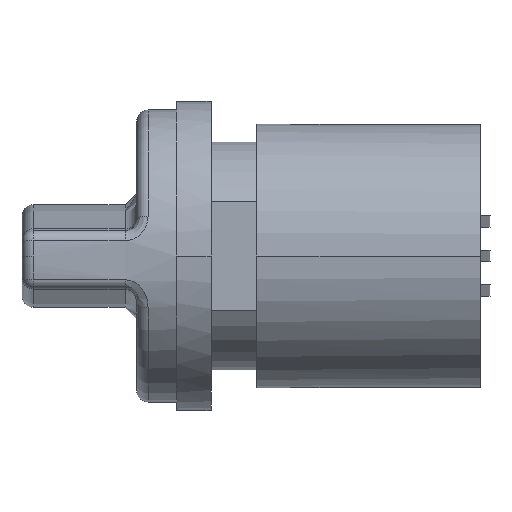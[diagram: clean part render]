
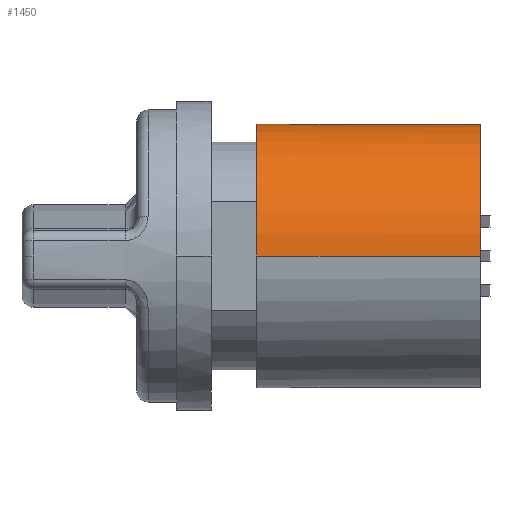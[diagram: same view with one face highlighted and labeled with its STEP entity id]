
A CAD part, left-side view. The second image highlights one B-rep face of the part: STEP entity #1450.
In plain terms, the highlighted cylindrical face has radius 11.5 mm (diameter 23 mm), a partial arc.
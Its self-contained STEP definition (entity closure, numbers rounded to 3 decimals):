
#71 = AXIS2_PLACEMENT_3D ( 'NONE', #141, #140, #147 ) ;
#128 = FACE_OUTER_BOUND ( 'NONE', #1449, .T. ) ;
#140 = DIRECTION ( 'NONE',  ( 0., 0., -1. ) ) ;
#141 = CARTESIAN_POINT ( 'NONE',  ( 0., 0., 19.5 ) ) ;
#147 = DIRECTION ( 'NONE',  ( -1., 0., 0. ) ) ;
#155 = CYLINDRICAL_SURFACE ( 'NONE', #71, 11.5 ) ;
#1203 = EDGE_CURVE ( 'NONE', #1220, #1212, #3448, .T. ) ;
#1204 = ORIENTED_EDGE ( 'NONE', *, *, #1217, .F. ) ;
#1207 = ORIENTED_EDGE ( 'NONE', *, *, #1213, .T. ) ;
#1208 = EDGE_CURVE ( 'NONE', #1212, #1230, #3401, .T. ) ;
#1210 = EDGE_CURVE ( 'NONE', #1274, #1219, #3322, .T. ) ;
#1211 = ORIENTED_EDGE ( 'NONE', *, *, #1255, .T. ) ;
#1212 = VERTEX_POINT ( 'NONE', #3321 ) ;
#1213 = EDGE_CURVE ( 'NONE', #1220, #1279, #3439, .T. ) ;
#1214 = EDGE_CURVE ( 'NONE', #1254, #1215, #3440, .T. ) ;
#1215 = VERTEX_POINT ( 'NONE', #3435 ) ;
#1216 = ORIENTED_EDGE ( 'NONE', *, *, #1210, .T. ) ;
#1217 = EDGE_CURVE ( 'NONE', #1254, #1219, #3291, .T. ) ;
#1218 = ORIENTED_EDGE ( 'NONE', *, *, #1214, .T. ) ;
#1219 = VERTEX_POINT ( 'NONE', #3431 ) ;
#1220 = VERTEX_POINT ( 'NONE', #3430 ) ;
#1222 = VERTEX_POINT ( 'NONE', #3292 ) ;
#1223 = VERTEX_POINT ( 'NONE', #3405 ) ;
#1224 = EDGE_CURVE ( 'NONE', #1222, #1229, #3418, .T. ) ;
#1225 = ORIENTED_EDGE ( 'NONE', *, *, #1227, .T. ) ;
#1226 = ORIENTED_EDGE ( 'NONE', *, *, #1228, .T. ) ;
#1227 = EDGE_CURVE ( 'NONE', #1223, #1230, #3423, .T. ) ;
#1228 = EDGE_CURVE ( 'NONE', #1229, #1223, #3465, .T. ) ;
#1229 = VERTEX_POINT ( 'NONE', #3467 ) ;
#1230 = VERTEX_POINT ( 'NONE', #3466 ) ;
#1254 = VERTEX_POINT ( 'NONE', #3389 ) ;
#1255 = EDGE_CURVE ( 'NONE', #1215, #1222, #3355, .T. ) ;
#1256 = ORIENTED_EDGE ( 'NONE', *, *, #1203, .F. ) ;
#1274 = VERTEX_POINT ( 'NONE', #3313 ) ;
#1275 = EDGE_CURVE ( 'NONE', #1279, #1274, #3307, .T. ) ;
#1276 = ORIENTED_EDGE ( 'NONE', *, *, #1275, .T. ) ;
#1279 = VERTEX_POINT ( 'NONE', #3305 ) ;
#1448 = ORIENTED_EDGE ( 'NONE', *, *, #1224, .T. ) ;
#1449 = EDGE_LOOP ( 'NONE', ( #1448, #1226, #1225, #1451, #1256, #1207, #1276, #1216, #1204, #1218, #1211 ) ) ;
#1450 = ADVANCED_FACE ( 'NONE', ( #128 ), #155, .T. ) ;
#1451 = ORIENTED_EDGE ( 'NONE', *, *, #1208, .F. ) ;
#3290 = VECTOR ( 'NONE', #3399, 1000. ) ;
#3291 = CIRCLE ( 'NONE', #3428, 11.5 ) ;
#3292 = CARTESIAN_POINT ( 'NONE',  ( 11.461, 0.944, 10.057 ) ) ;
#3301 = CARTESIAN_POINT ( 'NONE',  ( 10.451, 4.799, 14.926 ) ) ;
#3302 = CARTESIAN_POINT ( 'NONE',  ( 10.178, 5.392, 15.775 ) ) ;
#3303 = CARTESIAN_POINT ( 'NONE',  ( 9.856, 5.961, 16.586 ) ) ;
#3304 = CARTESIAN_POINT ( 'NONE',  ( 9.487, 6.5, 17.356 ) ) ;
#3305 = CARTESIAN_POINT ( 'NONE',  ( 9.487, 6.5, 17.356 ) ) ;
#3307 =( BOUNDED_CURVE ( )  B_SPLINE_CURVE ( 3, ( #3304, #3303, #3302, #3301 ),
 .UNSPECIFIED., .F., .F. ) 
 B_SPLINE_CURVE_WITH_KNOTS ( ( 4, 4 ),
 ( 4.112, 4.282 ),
 .UNSPECIFIED. ) 
 CURVE ( )  GEOMETRIC_REPRESENTATION_ITEM ( )  RATIONAL_B_SPLINE_CURVE ( ( 1., 0.998, 0.998, 1. ) ) 
 REPRESENTATION_ITEM ( '' )  );
#3313 = CARTESIAN_POINT ( 'NONE',  ( 10.451, 4.799, 14.926 ) ) ;
#3320 = CARTESIAN_POINT ( 'NONE',  ( 10.451, 4.799, 14.926 ) ) ;
#3321 = CARTESIAN_POINT ( 'NONE',  ( -11.5, 0., 19.5 ) ) ;
#3322 = B_SPLINE_CURVE_WITH_KNOTS ( 'NONE', 3,
 ( #3320, #3443, #3442, #3441 ),
 .UNSPECIFIED., .F., .F.,
 ( 4, 4 ),
 ( 0., 0.001 ),
 .UNSPECIFIED. ) ;
#3355 = B_SPLINE_CURVE_WITH_KNOTS ( 'NONE', 3,
 ( #3378, #3377, #3376, #3375, #3374, #3373, #3372, #3371, #3370, #3369, #3368, #3367, #3366, #3365, #3364, #3363 ),
 .UNSPECIFIED., .F., .F.,
 ( 4, 2, 2, 2, 2, 2, 2, 4 ),
 ( 0., 0.001, 0.001, 0.001, 0.002, 0.002, 0.002, 0.003 ),
 .UNSPECIFIED. ) ;
#3363 = CARTESIAN_POINT ( 'NONE',  ( 11.461, 0.944, 10.057 ) ) ;
#3364 = CARTESIAN_POINT ( 'NONE',  ( 11.452, 1.054, 10.047 ) ) ;
#3365 = CARTESIAN_POINT ( 'NONE',  ( 11.441, 1.164, 10.048 ) ) ;
#3366 = CARTESIAN_POINT ( 'NONE',  ( 11.417, 1.381, 10.075 ) ) ;
#3367 = CARTESIAN_POINT ( 'NONE',  ( 11.404, 1.489, 10.101 ) ) ;
#3368 = CARTESIAN_POINT ( 'NONE',  ( 11.375, 1.692, 10.181 ) ) ;
#3369 = CARTESIAN_POINT ( 'NONE',  ( 11.36, 1.789, 10.234 ) ) ;
#3370 = CARTESIAN_POINT ( 'NONE',  ( 11.331, 1.964, 10.366 ) ) ;
#3371 = CARTESIAN_POINT ( 'NONE',  ( 11.318, 2.041, 10.442 ) ) ;
#3372 = CARTESIAN_POINT ( 'NONE',  ( 11.292, 2.176, 10.613 ) ) ;
#3373 = CARTESIAN_POINT ( 'NONE',  ( 11.281, 2.233, 10.708 ) ) ;
#3374 = CARTESIAN_POINT ( 'NONE',  ( 11.262, 2.327, 10.906 ) ) ;
#3375 = CARTESIAN_POINT ( 'NONE',  ( 11.255, 2.363, 11.01 ) ) ;
#3376 = CARTESIAN_POINT ( 'NONE',  ( 11.237, 2.448, 11.33 ) ) ;
#3377 = CARTESIAN_POINT ( 'NONE',  ( 11.232, 2.47, 11.548 ) ) ;
#3378 = CARTESIAN_POINT ( 'NONE',  ( 11.232, 2.47, 11.769 ) ) ;
#3389 = CARTESIAN_POINT ( 'NONE',  ( 11.232, 2.47, 14.5 ) ) ;
#3399 = DIRECTION ( 'NONE',  ( 0., 0., -1. ) ) ;
#3400 = CARTESIAN_POINT ( 'NONE',  ( -11.5, 0., 19.5 ) ) ;
#3401 = LINE ( 'NONE', #3400, #3290 ) ;
#3405 = CARTESIAN_POINT ( 'NONE',  ( 11.5, 0., 0. ) ) ;
#3417 = CARTESIAN_POINT ( 'NONE',  ( 11.461, 0.944, 10.057 ) ) ;
#3418 =( BOUNDED_CURVE ( )  B_SPLINE_CURVE ( 3, ( #3417, #3475, #3474, #3473 ),
 .UNSPECIFIED., .F., .T. ) 
 B_SPLINE_CURVE_WITH_KNOTS ( ( 4, 4 ),
 ( 3.059, 3.142 ),
 .UNSPECIFIED. ) 
 CURVE ( )  GEOMETRIC_REPRESENTATION_ITEM ( )  RATIONAL_B_SPLINE_CURVE ( ( 1., 0.999, 0.999, 1. ) ) 
 REPRESENTATION_ITEM ( '' )  );
#3419 = CARTESIAN_POINT ( 'NONE',  ( 0., 0., 0. ) ) ;
#3423 = CIRCLE ( 'NONE', #3472, 11.5 ) ;
#3425 = DIRECTION ( 'NONE',  ( 1., 0., 0. ) ) ;
#3426 = DIRECTION ( 'NONE',  ( 0., 0., 1. ) ) ;
#3427 = CARTESIAN_POINT ( 'NONE',  ( 0., 0., 14.5 ) ) ;
#3428 = AXIS2_PLACEMENT_3D ( 'NONE', #3427, #3426, #3425 ) ;
#3430 = CARTESIAN_POINT ( 'NONE',  ( 9.487, 6.5, 19.5 ) ) ;
#3431 = CARTESIAN_POINT ( 'NONE',  ( 10.79, 3.979, 14.5 ) ) ;
#3432 = DIRECTION ( 'NONE',  ( 0., 0., -1. ) ) ;
#3433 = VECTOR ( 'NONE', #3432, 1000. ) ;
#3434 = CARTESIAN_POINT ( 'NONE',  ( 11.232, 2.47, 19.5 ) ) ;
#3435 = CARTESIAN_POINT ( 'NONE',  ( 11.232, 2.47, 11.769 ) ) ;
#3436 = DIRECTION ( 'NONE',  ( 0., 0., -1. ) ) ;
#3437 = VECTOR ( 'NONE', #3436, 1000. ) ;
#3438 = CARTESIAN_POINT ( 'NONE',  ( 9.487, 6.5, 19.5 ) ) ;
#3439 = LINE ( 'NONE', #3438, #3437 ) ;
#3440 = LINE ( 'NONE', #3434, #3433 ) ;
#3441 = CARTESIAN_POINT ( 'NONE',  ( 10.79, 3.979, 14.5 ) ) ;
#3442 = CARTESIAN_POINT ( 'NONE',  ( 10.671, 4.3, 14.5 ) ) ;
#3443 = CARTESIAN_POINT ( 'NONE',  ( 10.538, 4.609, 14.655 ) ) ;
#3444 = DIRECTION ( 'NONE',  ( 1., 0., 0. ) ) ;
#3445 = DIRECTION ( 'NONE',  ( 0., 0., 1. ) ) ;
#3446 = CARTESIAN_POINT ( 'NONE',  ( 0., 0., 19.5 ) ) ;
#3447 = AXIS2_PLACEMENT_3D ( 'NONE', #3446, #3445, #3444 ) ;
#3448 = CIRCLE ( 'NONE', #3447, 11.5 ) ;
#3462 = DIRECTION ( 'NONE',  ( 0., 0., -1. ) ) ;
#3463 = VECTOR ( 'NONE', #3462, 1000. ) ;
#3464 = CARTESIAN_POINT ( 'NONE',  ( 11.5, 0., 19.5 ) ) ;
#3465 = LINE ( 'NONE', #3464, #3463 ) ;
#3466 = CARTESIAN_POINT ( 'NONE',  ( -11.5, 0., 0. ) ) ;
#3467 = CARTESIAN_POINT ( 'NONE',  ( 11.5, 0., 10.099 ) ) ;
#3468 = DIRECTION ( 'NONE',  ( 1., 0., 0. ) ) ;
#3469 = DIRECTION ( 'NONE',  ( 0., 0., 1. ) ) ;
#3472 = AXIS2_PLACEMENT_3D ( 'NONE', #3419, #3469, #3468 ) ;
#3473 = CARTESIAN_POINT ( 'NONE',  ( 11.5, 0., 10.099 ) ) ;
#3474 = CARTESIAN_POINT ( 'NONE',  ( 11.5, 0.315, 10.099 ) ) ;
#3475 = CARTESIAN_POINT ( 'NONE',  ( 11.487, 0.63, 10.085 ) ) ;
